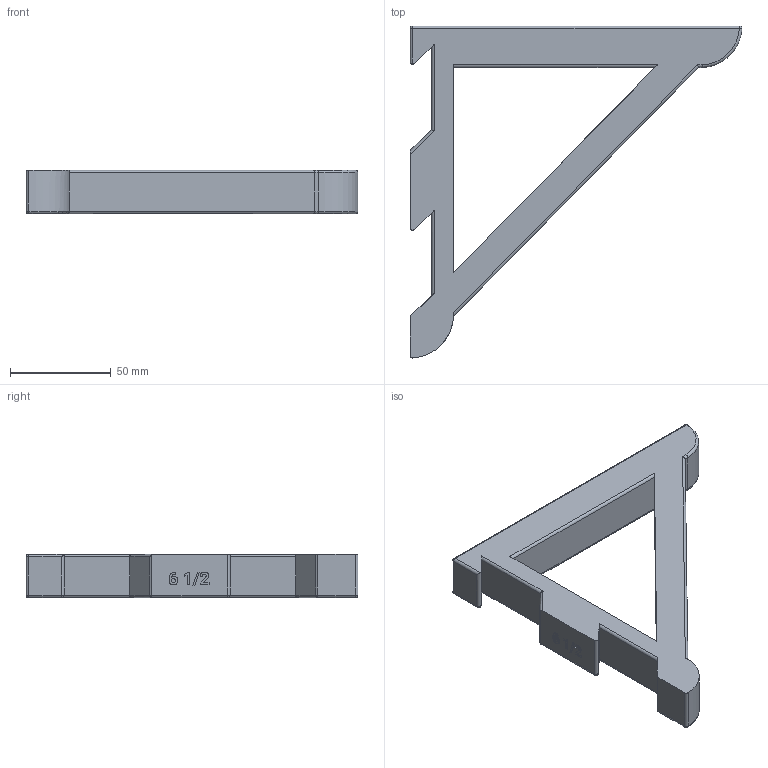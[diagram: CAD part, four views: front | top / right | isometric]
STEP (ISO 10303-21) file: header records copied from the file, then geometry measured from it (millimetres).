
FILE_DESCRIPTION(/* description */ ('STEP AP242','CAx-IF Rec.Pracs.---Representation and Presentation of Product Manufacturing Information (PMI)---4.0---2014-10-13','CAx-IF Rec.Pracs.---3D Tessellated Geometry---0.4---2014-09-14','2;1'),/* implementation_level */ '2;1');
FILE_NAME(/* name */ '677e13e6248f357686529191',/* time_stamp */ '2025-01-08T05:57:59Z',/* author */ (''),/* organization */ (''),/* preprocessor_version */ 'ST-DEVELOPER v20',/* originating_system */ 'ONSHAPE BY PTC INC, 1.191',/* authorisation */ ' ');
FILE_SCHEMA (('AP242_MANAGED_MODEL_BASED_3D_ENGINEERING_MIM_LF { 1 0 10303 442 1 1 4 }'));
Length unit declared in the file: metre
Products named in the file (1): Shelf Bracket-6.5
Bounding box: 165.06 x 165.06 x 21.59 mm (x, y, z)
Volume: 169486 mm3; surface area: 35824.4 mm2
Topology: 1 solids, 1 shells, 123 faces, 317 edges, 192 vertices
Faces by surface type: plane 45, cylinder 38, bspline 28, sphere 9, torus 3
Entity records: 3757 total; most frequent: CARTESIAN_POINT 949, ORIENTED_EDGE 616, DIRECTION 508, EDGE_CURVE 308, VERTEX_POINT 192, LINE 180, VECTOR 180, AXIS2_PLACEMENT_3D 164
